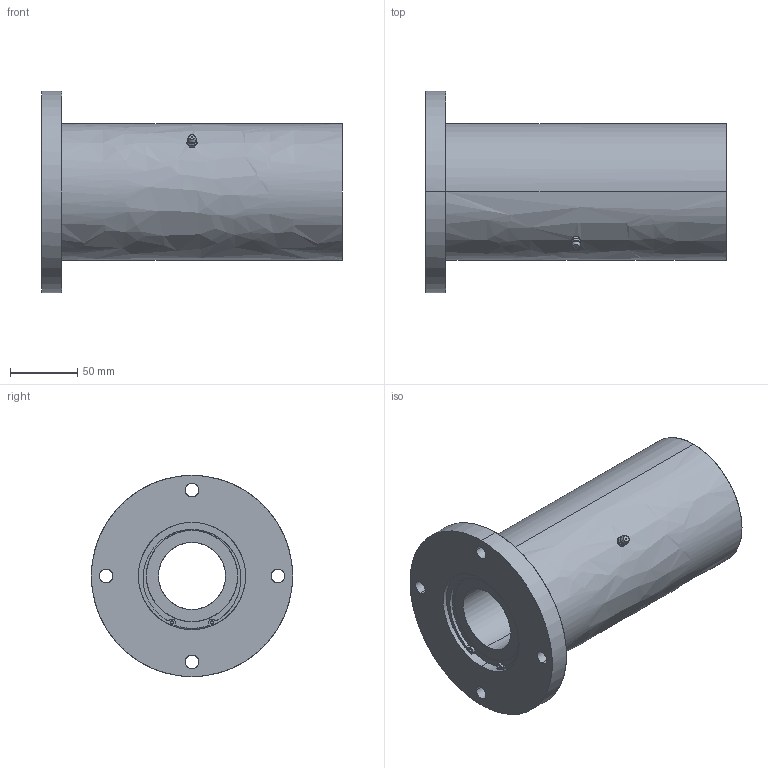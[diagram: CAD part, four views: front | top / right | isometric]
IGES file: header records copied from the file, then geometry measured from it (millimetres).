
Global section: file name: No Iges File Name specified; native system: AutoDesk Inventor R10; preprocessor: AutoDesk Inventor Iges Exporter R10; author: No Author specified; organization: No Organization specified; date: 20101214.142209; units: millimetre
Bounding box: 224 x 150 x 150 mm (x, y, z)
Surface area: 163765.2 mm2 (no closed solid volume)
Topology: 0 solids, 0 shells, 137 faces, 962 edges, 960 vertices
Faces by surface type: bspline 137
